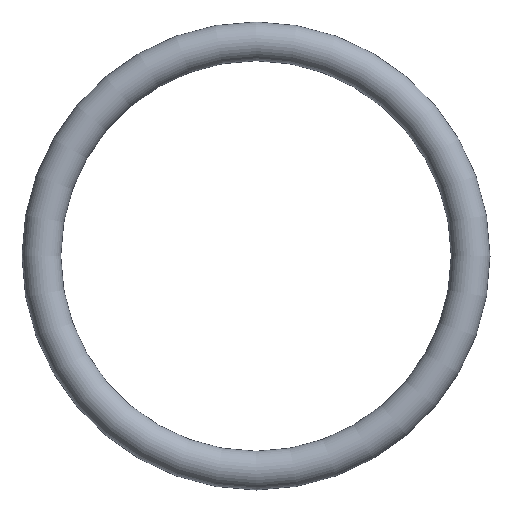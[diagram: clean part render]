
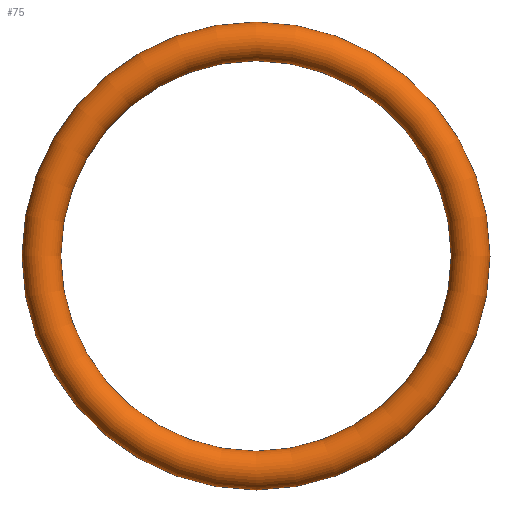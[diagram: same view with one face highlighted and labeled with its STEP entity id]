
A CAD part, front view. The second image highlights one B-rep face of the part: STEP entity #75.
In plain terms, the highlighted toroidal (fillet/blend) face has major radius 8.85 mm and minor radius 0.8 mm.
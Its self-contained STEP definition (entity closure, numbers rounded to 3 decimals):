
#75 = ADVANCED_FACE( '', ( #77 ), #78, .T. );
#77 = FACE_BOUND( '', #79, .T. );
#78 = TOROIDAL_SURFACE( '', #80, 8.85, 0.8 );
#79 = VERTEX_LOOP( '', #81 );
#80 = AXIS2_PLACEMENT_3D( '', #82, #83, #84 );
#81 = VERTEX_POINT( '', #85 );
#82 = CARTESIAN_POINT( '', ( 0., 0., 0. ) );
#83 = DIRECTION( '', ( 0., -1., 0. ) );
#84 = DIRECTION( '', ( 0., 0., -1. ) );
#85 = CARTESIAN_POINT( '', ( 0., 0., -9.65 ) );
